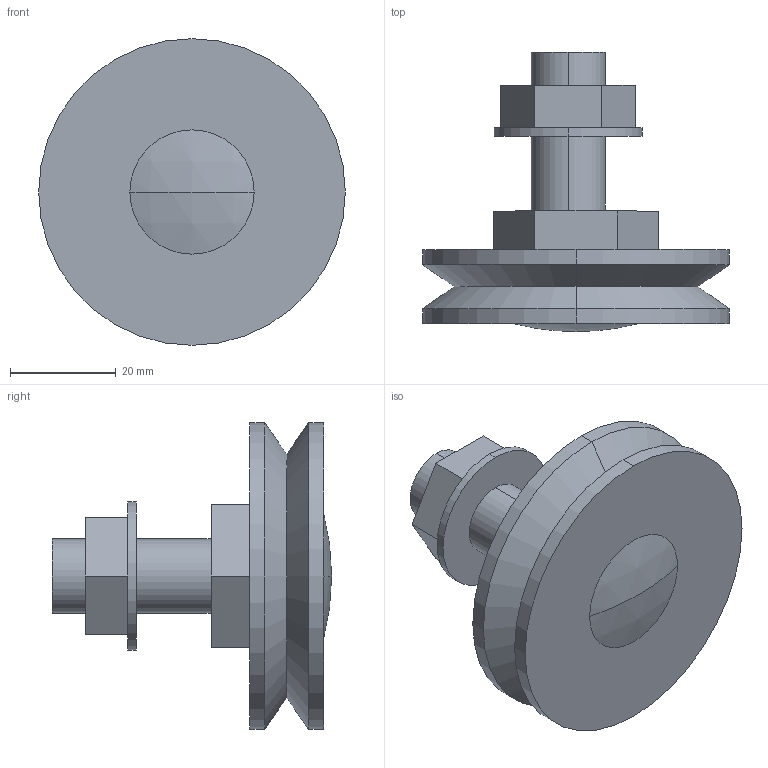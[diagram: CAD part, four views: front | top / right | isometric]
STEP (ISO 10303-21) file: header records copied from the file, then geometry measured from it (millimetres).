
FILE_DESCRIPTION(('STEP AP203'),'1');
FILE_NAME('glj_580_e_ns.stp','2021-09-29T05:41:12',('TraceParts'),('TraceParts S.A.'),'Spatial InterOp 3D',' ',' ');
FILE_SCHEMA(('CONFIG_CONTROL_DESIGN'));
Length unit declared in the file: millimetre
Products named in the file (1): 1
Bounding box: 58 x 52.8 x 58 mm (x, y, z)
Volume: 45088.6 mm3; surface area: 12016.8 mm2
Topology: 1 solids, 1 shells, 42 faces, 94 edges, 61 vertices
Faces by surface type: plane 26, cylinder 10, cone 4, sphere 2
Entity records: 1208 total; most frequent: DIRECTION 206, CARTESIAN_POINT 198, ORIENTED_EDGE 188, EDGE_CURVE 94, AXIS2_PLACEMENT_3D 69, LINE 68, VECTOR 68, VERTEX_POINT 61
